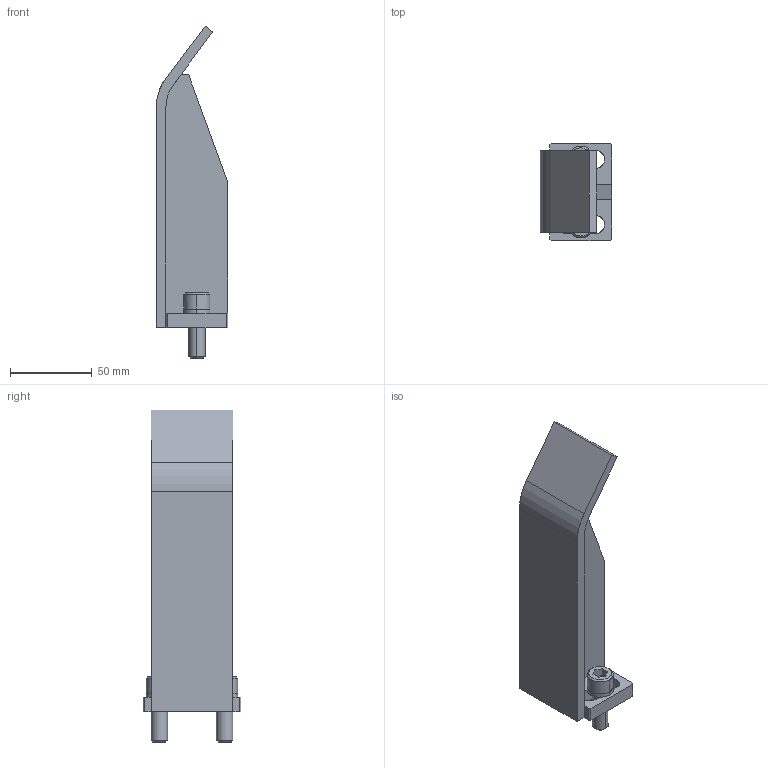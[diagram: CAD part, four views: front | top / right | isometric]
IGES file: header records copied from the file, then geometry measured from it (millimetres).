
Global section: file name: E:\UnigraphicsGraphicData\MISUMI_PRESS-PARTS\IGES\3d_nstfa-145-m10_01629_r00.igs; native system: NX V5.0; preprocessor: UGS NX IGES V5.0; author: MISUMI; date: 20110105.162129; units: millimetre
Bounding box: 44 x 60 x 203.5 mm (x, y, z)
Surface area: 41513.1 mm2 (no closed solid volume)
Topology: 0 solids, 0 shells, 83 faces, 516 edges, 516 vertices
Faces by surface type: bspline 83
